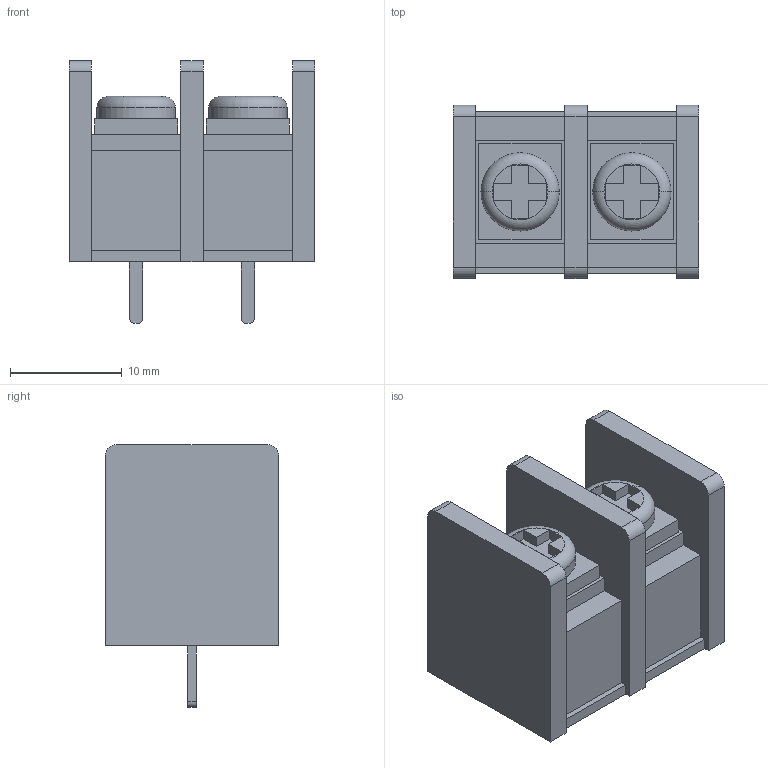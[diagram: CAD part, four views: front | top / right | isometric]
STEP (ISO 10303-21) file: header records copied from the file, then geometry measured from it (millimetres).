
FILE_DESCRIPTION (( 'STEP AP214' ), '1' );
FILE_NAME ('3BD96E33-B068-4D24-98EE-24DCB7421833.STEP', '2024-09-08T01:06:09', ( '' ), ( '' ), 'SwSTEP 2.0', 'SolidWorks 2022', '' );
FILE_SCHEMA (( 'AUTOMOTIVE_DESIGN' ));
Length unit declared in the file: millimetre
Products named in the file (1): 3BD96E33-B068-4D24-98EE-24DCB7421833
Bounding box: 22 x 15.5 x 23.5 mm (x, y, z)
Volume: 4364.4 mm3; surface area: 2540.6 mm2
Topology: 1 solids, 1 shells, 118 faces, 294 edges, 184 vertices
Faces by surface type: plane 100, cylinder 14, torus 4
Entity records: 4774 total; most frequent: CARTESIAN_POINT 597, ORIENTED_EDGE 588, DIRECTION 584, EDGE_CURVE 294, LINE 242, VECTOR 242, VERTEX_POINT 184, AXIS2_PLACEMENT_3D 171
